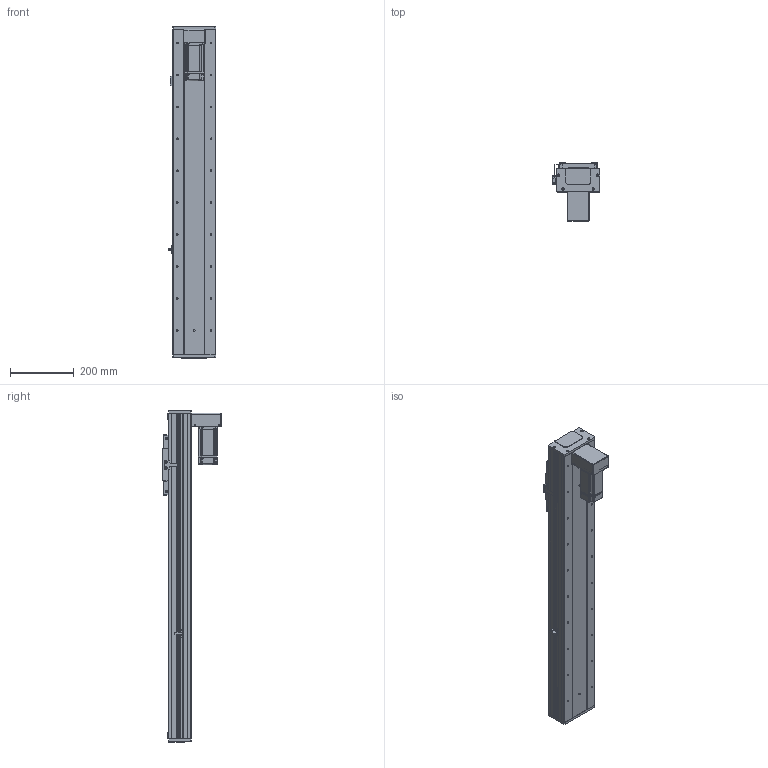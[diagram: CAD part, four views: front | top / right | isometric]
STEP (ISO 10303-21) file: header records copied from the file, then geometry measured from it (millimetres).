
FILE_DESCRIPTION (( 'STEP AP203' ), '1' );
FILE_NAME ('RY140F-L2020-300-BK.SLDASM_750.step', '2021-03-02T08:26:58', ( '盈信电脑' ), ( '东莞市道滘镇水果街19号' ), 'SwSTEP 2.0', 'SolidWorks 2012', '' );
FILE_SCHEMA (( 'CONFIG_CONTROL_DESIGN' ));
Length unit declared in the file: millimetre
Products named in the file (21): RY140F-L2020-300-BK.SLDASM_750; RY140F-直连型材铝滑块(16丝杆); RY140F-詩湍嘐隅輸; 滅袉蝶18-10; RY140F-狟殏萇儂欶(400W); 侐源滅袉蝶; RY140F-詩湍揤え; RY140F-狟殏萇儂啣(400W M5); 侂狟400W侜督萇儂; 15; 覜茼ん672; RY140F-672覜茼んえ; RY100F-詩湍揤踡謫; RY140F-后盖板(铝件）; 藻笠沭; RY140F-詩湍幗謫粣; RY140F-滅鳥奻裔; RY140F-300-BK蛌殏詩湍_750; RY140F-300-BK倰第奻裔啣_750; RY140F-直连型材铝滑块连接座; RY140F-300-BK倰第菁釱_750
Assembly tree (26 placements, depth 3):
  RY140F-L2020-300-BK.SLDASM_750
    RY140F-300-BK倰第菁釱_750
    RY140F-300-BK倰第奻裔啣_750  x2
    RY140F-300-BK蛌殏詩湍_750
    RY140F-直连型材铝滑块连接座
    RY140F-滅鳥奻裔
    RY140F-詩湍幗謫粣
    藻笠沭  x2
    RY100F-詩湍揤踡謫
    RY140F-后盖板(铝件）  x2
    侂狟400W侜督萇儂
      15
    覜茼ん672
    RY140F-672覜茼んえ
    RY140F-詩湍揤え  x2
    侐源滅袉蝶  x2
    RY140F-狟殏萇儂啣(400W M5)
    RY140F-狟殏萇儂欶(400W)
    RY140F-詩湍嘐隅輸
    滅袉蝶18-10  x2
    RY140F-直连型材铝滑块(16丝杆)
Bounding box: 148.7 x 184.5 x 1039 mm (x, y, z)
Volume: 4071836.9 mm3; surface area: 1446464.8 mm2
Topology: 25 solids, 25 shells, 2028 faces, 5548 edges, 3536 vertices
Faces by surface type: cylinder 983, plane 811, cone 208, bspline 22, torus 4
Entity records: 63820 total; most frequent: CARTESIAN_POINT 13407, DIRECTION 10183, ORIENTED_EDGE 9908, EDGE_CURVE 4954, AXIS2_PLACEMENT_3D 3640, VERTEX_POINT 3240, LINE 2903, VECTOR 2903
